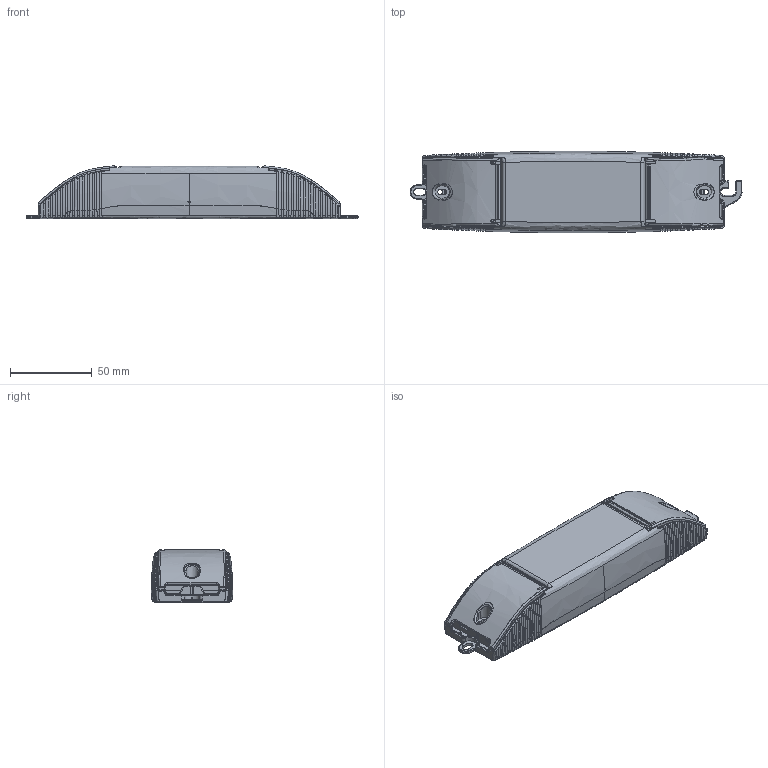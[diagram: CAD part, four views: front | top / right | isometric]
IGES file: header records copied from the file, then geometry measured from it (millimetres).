
Start section: SolidWorks IGES file using analytic representation for surfaces
Global section: file name: C:\Dokumente und Einstellungen\Stefan.Otzen\Desktop\PTi20I.IGS; native system: SolidWorks 2007; preprocessor: SolidWorks 2007; author: Stefan.Otzen; date: 100120.100846; units: millimetre
Bounding box: 203.5 x 50 x 32.57 mm (x, y, z)
Surface area: 71774.1 mm2 (no closed solid volume)
Topology: 0 solids, 0 shells, 1942 faces, 18207 edges, 18183 vertices
Faces by surface type: bspline 1342, revolution 600
